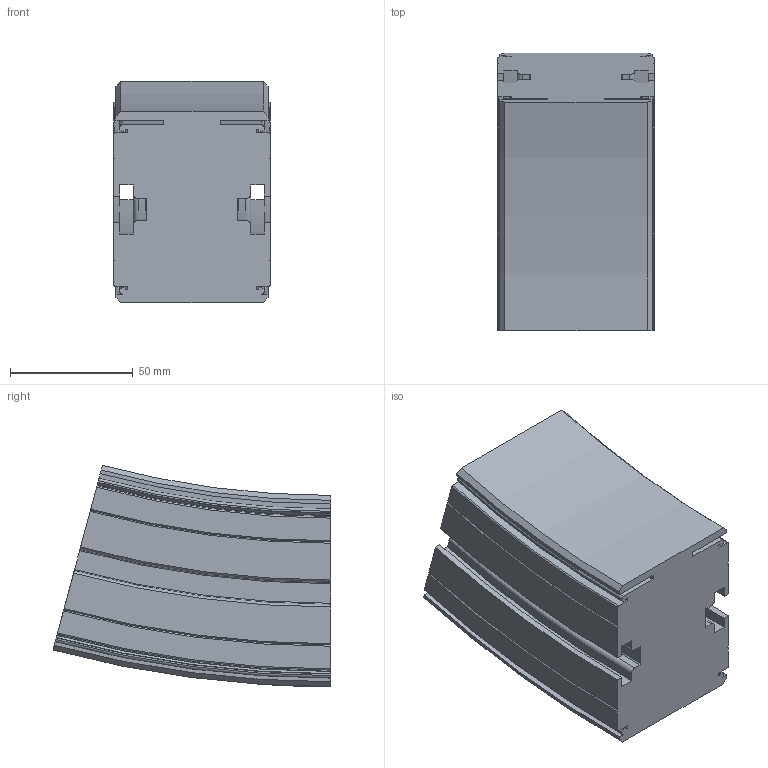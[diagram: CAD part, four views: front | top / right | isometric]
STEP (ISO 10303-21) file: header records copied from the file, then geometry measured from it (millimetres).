
FILE_DESCRIPTION(/* description */ ('VERTIKALKURVA S620 R400'),/* implementation_level */ '2;1');
FILE_NAME(/* name */ '\\carryline.intra\privat\users\mathias\Desktop\Tillfälliga filer\620-5645+620-2000-NER-01.stp',/* time_stamp */ '2018-12-05T15:50:41+01:00',/* author */ ('MD'),/* organization */ ('CARRYLINE'),/* preprocessor_version */ 'ST-DEVELOPER v17',/* originating_system */ 'Autodesk Inventor 2018',/* authorisation */ '');
FILE_SCHEMA (('AUTOMOTIVE_DESIGN { 1 0 10303 214 3 1 1 }'));
Length unit declared in the file: millimetre
Products named in the file (1): 620-5645+620-2000-NER-01
Bounding box: 64 x 113.36 x 90.27 mm (x, y, z)
Volume: 466961.8 mm3; surface area: 58572.7 mm2
Topology: 1 solids, 1 shells, 149 faces, 426 edges, 284 vertices
Faces by surface type: plane 54, cylinder 37, torus 28, cone 16, bspline 14
Entity records: 9542 total; most frequent: CARTESIAN_POINT 5522, ORIENTED_EDGE 852, DIRECTION 836, EDGE_CURVE 426, AXIS2_PLACEMENT_3D 315, VERTEX_POINT 284, LINE 206, VECTOR 206
